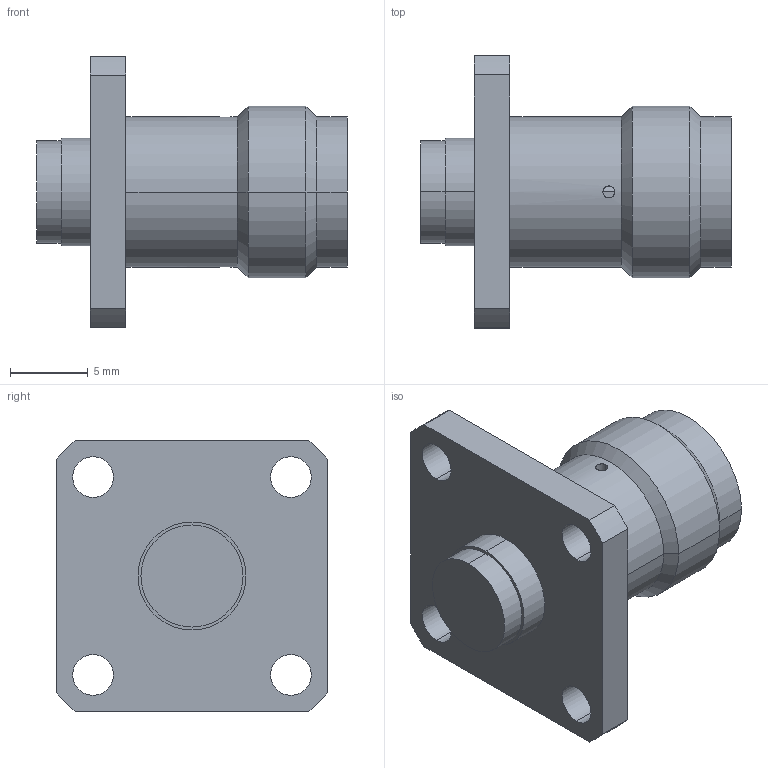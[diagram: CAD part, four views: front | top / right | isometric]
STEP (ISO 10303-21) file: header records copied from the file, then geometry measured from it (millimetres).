
FILE_DESCRIPTION (( 'STEP AP214' ), '1' );
FILE_NAME ('SF4021-60098.STEP', '2018-08-09T12:33:53', ( '' ), ( '' ), 'SwSTEP 2.0', 'SolidWorks 2016', '' );
FILE_SCHEMA (( 'AUTOMOTIVE_DESIGN' ));
Length unit declared in the file: inch
Products named in the file (1): SF4021-60098
Bounding box: 19.96 x 17.45 x 17.45 mm (x, y, z)
Volume: 1528 mm3; surface area: 1592 mm2
Topology: 1 solids, 1 shells, 70 faces, 164 edges, 106 vertices
Faces by surface type: cylinder 32, plane 24, cone 14
Entity records: 3059 total; most frequent: CARTESIAN_POINT 449, DIRECTION 364, ORIENTED_EDGE 328, EDGE_CURVE 164, AXIS2_PLACEMENT_3D 145, VERTEX_POINT 106, EDGE_LOOP 92, CIRCLE 74
